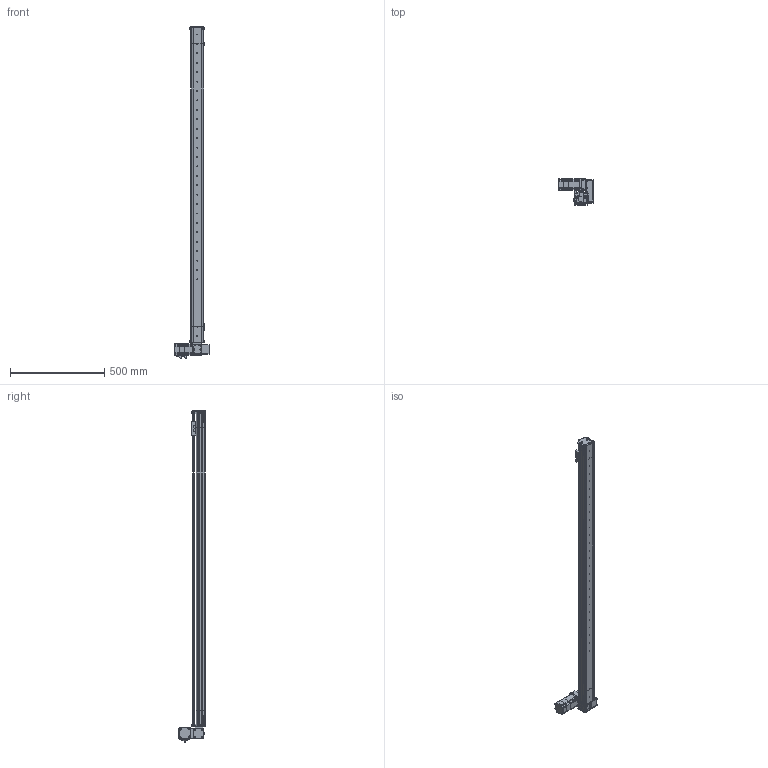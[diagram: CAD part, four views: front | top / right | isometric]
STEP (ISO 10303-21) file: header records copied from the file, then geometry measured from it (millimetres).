
FILE_DESCRIPTION (( 'STEP AP214' ), '1' );
FILE_NAME ('S07 TBN LT S1500.STEP', '2010-06-29T12:11:14', ( 'Conseil Régional Haute-Normandie' ), ( 'Conseil Régional Haute-Normandie' ), 'SwSTEP 2.0', 'SolidWorks 2010', '' );
FILE_SCHEMA (( 'AUTOMOTIVE_DESIGN' ));
Length unit declared in the file: millimetre
Products named in the file (41): Pièce5^S07 LT(146); VisM3_Default; Vis M5 L16-2_Default; Cvis M5 L30_Default; Conecteur2 60BLDC_Default; Conecteur 60BLDC_Default; Axe 60BLDC_Default; P4_Default; P3 90A_Default; P2 90A_Default; Plaque racord_Default; Couroie t皻e_Default; P1_Default; GMB 60 90 310_Default; renvoi LT_Default; vis M5 L16_Default; Chariot; guide; Poulie_Default; T皻e de poulie_Default; CHariot_Default; couroie tail_Default; vis M5 L12_Default; couvercle tail TB; plaque de bout_Default; corp tail TB_Default; S07 TB tail (78)_Default; S07 TBN LT S1500; Couroie  course 1500_Default; Corp S07 course 1500_Default; Course C L1500_Default; corp moteur TB(146)_Default; S07 LT(146)_Default; couvercle S07 course 1500 ; cache t皻e axe_Default; couvercle moteur S07 TB; plaque de bout LT_Default; vis M5 L5_Default; cache t皻e_Default; Poulie head_Default
Assembly tree (80 placements, depth 4):
  Pièce5^S07 LT(146)
  S07 TBN LT S1500
    CHariot_Default
      guide
      Chariot
      vis M5 L16_Default  x2
    Course C L1500_Default
      Corp S07 course 1500_Default
      couvercle S07 course 1500 
      Couroie  course 1500_Default
    S07 LT(146)_Default
      Vis M5 L16-2_Default  x8
      vis M5 L5_Default  x6
      vis M5 L12_Default  x6
      Plaque racord_Default
      Couroie t皻e_Default
      renvoi LT_Default
      cache t皻e axe_Default
      cache t皻e_Default  x2
      couvercle moteur S07 TB
      Cvis M5 L30_Default  x2
      Poulie head_Default
      corp moteur TB(146)_Default
      plaque de bout LT_Default
      GMB 60 90 310_Default
        VisM3_Default  x12
        P1_Default
        P4_Default
        Axe 60BLDC_Default
        Conecteur2 60BLDC_Default
        Conecteur 60BLDC_Default
        P3 90A_Default
        P2 90A_Default
    S07 TB tail (78)_Default
      vis M5 L12_Default  x10
      plaque de bout_Default
      couroie tail_Default
      couvercle tail TB
      corp tail TB_Default
      Poulie_Default
        Poulie_Default
        T皻e de poulie_Default
Bounding box: 190.2 x 139.5 x 1762 mm (x, y, z)
Volume: 3439299.3 mm3; surface area: 1501294.1 mm2
Topology: 102 solids, 102 shells, 3950 faces, 9822 edges, 6345 vertices
Faces by surface type: plane 2239, cylinder 781, bspline 677, cone 125, torus 124, sphere 4
Entity records: 167921 total; most frequent: CARTESIAN_POINT 75311, ORIENTED_EDGE 15556, DIRECTION 12439, EDGE_CURVE 7778, VERTEX_POINT 5133, LINE 5061, VECTOR 5061, AXIS2_PLACEMENT_3D 3689
